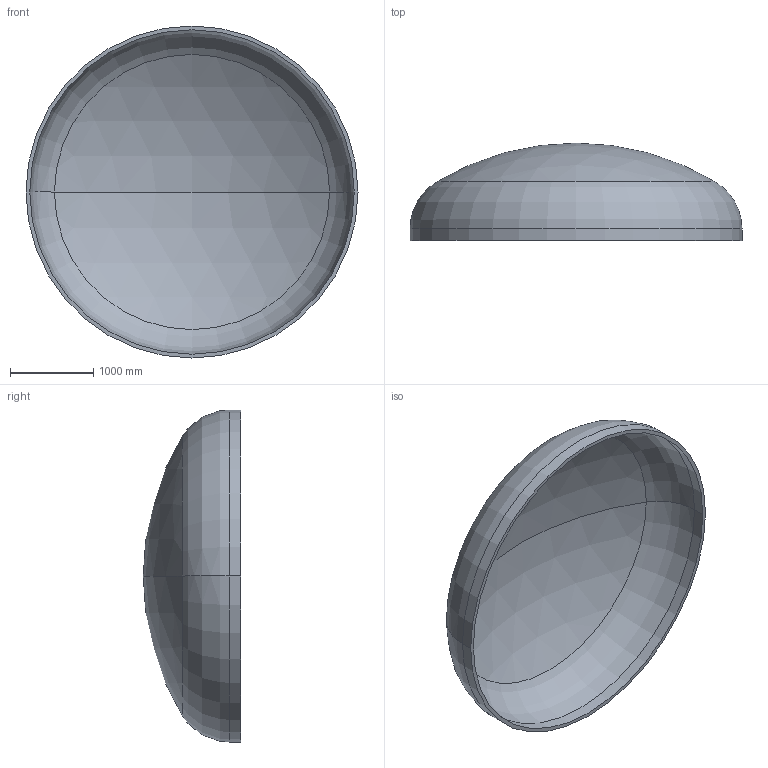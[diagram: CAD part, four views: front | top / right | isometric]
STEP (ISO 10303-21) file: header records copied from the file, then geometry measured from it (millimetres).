
FILE_DESCRIPTION (( 'STEP AP203' ), '1' );
FILE_NAME ('DIN 28013 Korbbogenform_-_Boden DIN 28013 - 4000 x 140 - I - s=46.step', '2016-07-01T22:26:56', ( '' ), ( '' ), 'SwSTEP 2.0', 'SolidWorks 2013', '' );
FILE_SCHEMA (( 'CONFIG_CONTROL_DESIGN' ));
Length unit declared in the file: millimetre
Products named in the file (1): DIN 28013 Korbbogenform_-_Boden DIN 28013 - 4000 x 140 - I - s=46
Bounding box: 4000 x 1174.82 x 4000 mm (x, y, z)
Volume: 868258171 mm3; surface area: 38326178.8 mm2
Topology: 1 solids, 1 shells, 13 faces, 24 edges, 14 vertices
Faces by surface type: torus 4, cylinder 4, sphere 4, plane 1
Entity records: 407 total; most frequent: DIRECTION 72, CARTESIAN_POINT 52, ORIENTED_EDGE 48, AXIS2_PLACEMENT_3D 34, EDGE_CURVE 24, CIRCLE 20, EDGE_LOOP 14, VERTEX_POINT 14
